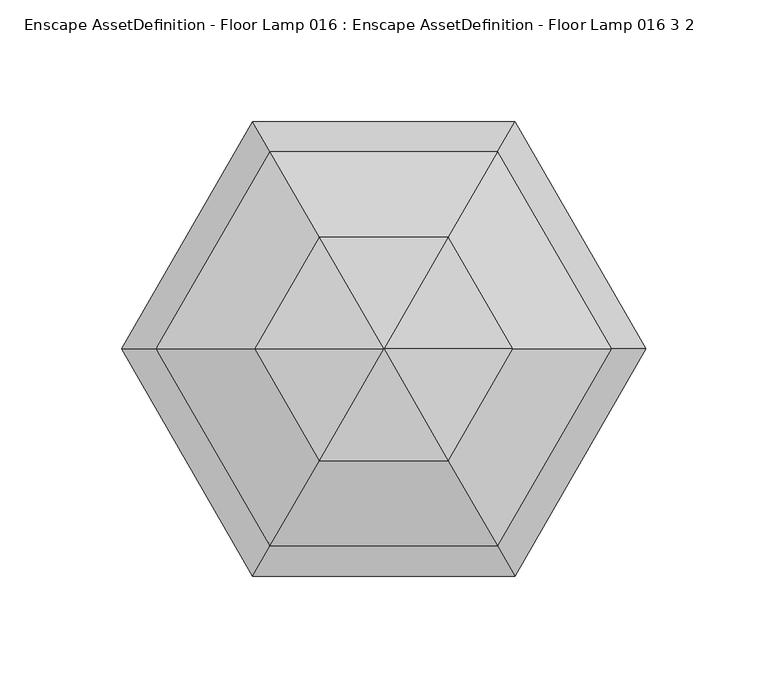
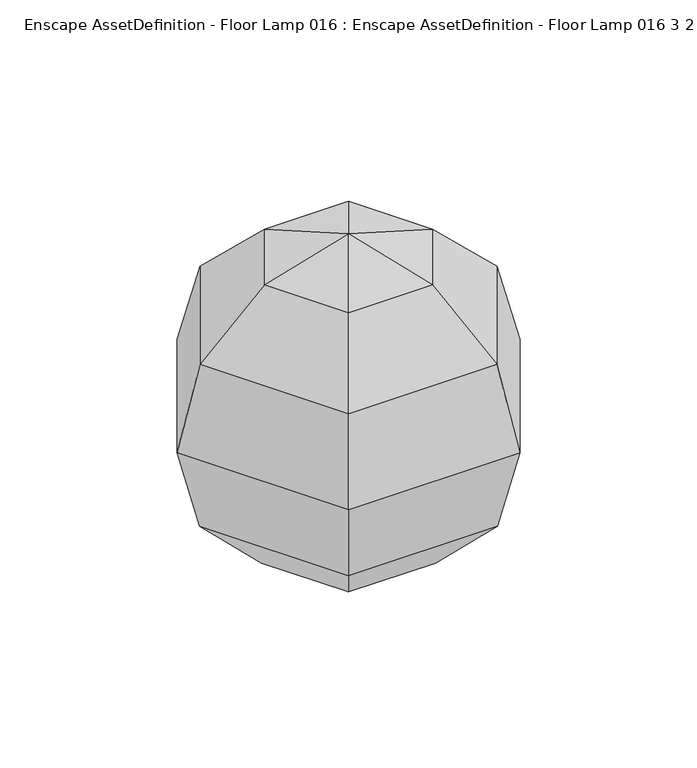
"""IFC4 building model written with IfcOpenShell, lengths in millimetres: geographic element geometry, Enscape AssetDefinition - Floor Lamp 016 : Enscape AssetDefinition - Floor Lamp 016 3 2."""

from ifc_helpers import new_model, si_unit, origin, place, context, project, spatial, triangles, source, transform, mapped, element, save


def enscape_assetdefinition_floor_lamp_016_enscape_966ce3ff(model_context):
    return source(origin(), model_context, "Body", "Tessellation", [
        triangles([(-46.7713366, -81.0101624, 145.6712501), (-93.5424462, 0.0, 145.6712501), (-107.8117787, 0.0, 91.8709366), (-46.7711095, 81.0101624, 145.6712501), (0.0, 0.0, 200.0000015), (-52.9879176, 0.0, 184.3880184), (-26.4940723, -45.8888596, 184.3880184), (-26.4938452, 45.8888596, 184.3880184), (-53.9057803, 93.3678111, 91.8709366), (-27.3343667, 47.3444575, -0.1626155), (-46.8654533, 81.17347, 38.0756033), (-54.6687334, 0.0, -0.1626155), (46.8654533, 81.17347, 38.0756033), (53.9060029, 93.3678111, 91.8709366), (27.3343667, 47.3444575, -0.1626155), (107.8117787, 0.0, 91.8709366), (27.3343667, -47.3444575, -0.1626155), (-93.7311429, 0.0, 38.0756033), (-27.3343667, -47.3444575, -0.1626155), (93.7311429, 0.0, 38.0756033), (46.8654533, -81.17347, 38.0756033), (54.6687334, 0.0, -0.1626155), (46.7713366, 81.0101624, 145.6712501), (-53.9060029, -93.3678111, 91.8709366), (53.9057803, -93.3678111, 91.8709366), (-46.865685, -81.17347, 38.0756033), (46.7711095, -81.0101624, 145.6712501), (52.9879176, 0.0, 184.3880184), (93.5424462, 0.0, 145.6712501), (26.4940723, 45.8888596, 184.3880184), (26.4938452, -45.8888596, 184.3880184)], [[5, 7, 31], [1, 31, 7], [5, 31, 28], [5, 30, 8], [5, 28, 30], [23, 8, 30], [29, 23, 30], [29, 30, 28], [27, 29, 28], [1, 27, 31], [27, 28, 31], [24, 27, 1], [18, 26, 24], [18, 19, 26], [26, 19, 17], [21, 17, 22], [26, 17, 21], [26, 21, 25], [24, 25, 27], [26, 25, 24], [25, 29, 27], [25, 16, 29], [16, 23, 29], [25, 21, 20], [21, 22, 20], [25, 20, 16], [15, 22, 17], [20, 22, 15], [17, 19, 12], [18, 12, 19], [12, 15, 17], [12, 10, 15], [13, 15, 10], [16, 20, 13], [20, 15, 13], [16, 14, 23], [16, 13, 14], [11, 10, 12], [14, 13, 11], [11, 12, 18], [13, 10, 11], [11, 18, 3], [18, 24, 3], [11, 3, 9], [14, 11, 9], [14, 9, 4], [23, 4, 8], [14, 4, 23], [5, 8, 6], [5, 6, 7], [4, 6, 8], [9, 3, 2], [2, 3, 24], [4, 2, 6], [2, 1, 7], [9, 2, 4], [2, 24, 1], [2, 7, 6]]),
    ])


if __name__ == "__main__":
    model = new_model("IFC4")
    model_context = context("Model", 3, world=origin())
    ifc_project = project(units=[si_unit("LENGTHUNIT", "METRE", prefix="MILLI")], contexts=[model_context])
    site = spatial("IfcSite", under=ifc_project)
    building = spatial("IfcBuilding", under=site)
    placement = place(None, origin())
    enscape_assetdefinition_floor_lamp_016_enscape_shape = enscape_assetdefinition_floor_lamp_016_enscape_966ce3ff(model_context)
    element("IfcGeographicElement", 1, ObjectType="Enscape AssetDefinition - Floor Lamp 016 : Enscape AssetDefinition - Floor Lamp 016 3 2", at=placement, inside=building, context=model_context, shape_type="MappedRepresentation", body=[
        mapped(enscape_assetdefinition_floor_lamp_016_enscape_shape, transform((0.0, 0.0, 0.0), x_axis=(1.0, 0.0, 0.0), y_axis=(0.0, 1.0, 0.0), z_axis=(0.0, 0.0, 1.0))),
    ])
    save(model, "model.ifc")
